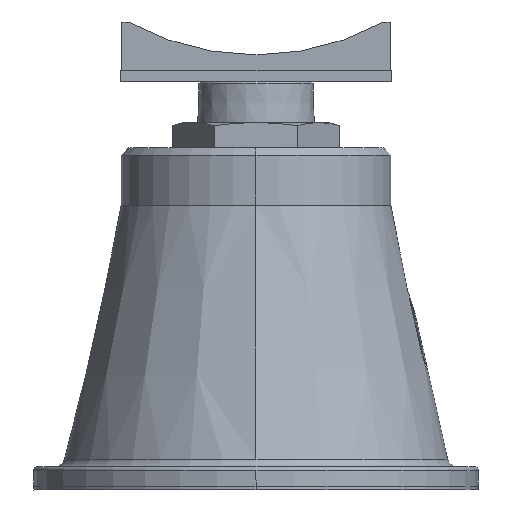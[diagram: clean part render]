
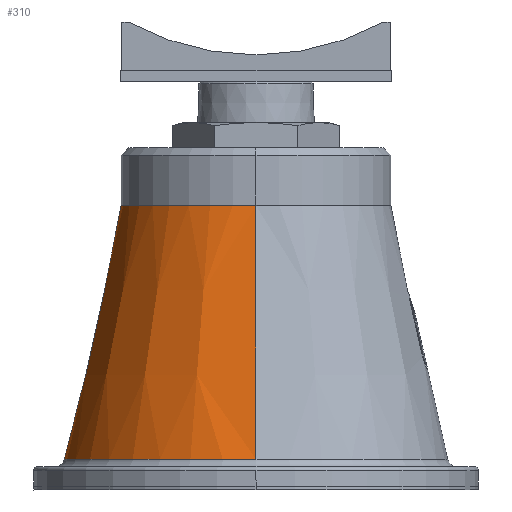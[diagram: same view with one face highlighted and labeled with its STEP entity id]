
A CAD part, left-side view. The second image highlights one B-rep face of the part: STEP entity #310.
In plain terms, the highlighted conical face has half-angle 12.633 degrees and reference radius 84.432 mm.
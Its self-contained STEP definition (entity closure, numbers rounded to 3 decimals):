
#310=ADVANCED_FACE('',(#649),#650,.T.);
#649=FACE_OUTER_BOUND('',#1047,.T.);
#650=CONICAL_SURFACE('',#1048,84.432,0.22);
#1047=EDGE_LOOP('',(#1759,#1760,#1761,#1762,#1763));
#1048=AXIS2_PLACEMENT_3D('',#1764,#1765,#1766);
#1759=ORIENTED_EDGE('',*,*,#2500,.T.);
#1760=ORIENTED_EDGE('',*,*,#2525,.F.);
#1761=ORIENTED_EDGE('',*,*,#2502,.T.);
#1762=ORIENTED_EDGE('',*,*,#2526,.T.);
#1763=ORIENTED_EDGE('',*,*,#2426,.T.);
#1764=CARTESIAN_POINT('',(434.792,556.23,-99.293));
#1765=DIRECTION('',(0.,0.,-1.0));
#1766=DIRECTION('',(-1.0,0.,0.));
#2426=EDGE_CURVE('',#2890,#2898,#2900,.T.);
#2500=EDGE_CURVE('',#2898,#3031,#3032,.T.);
#2502=EDGE_CURVE('',#3035,#3033,#3036,.T.);
#2525=EDGE_CURVE('',#3035,#3031,#3074,.T.);
#2526=EDGE_CURVE('',#3033,#2890,#3075,.T.);
#2890=VERTEX_POINT('',#3627);
#2898=VERTEX_POINT('',#3635);
#2900=CIRCLE('',#3637,99.123);
#3031=VERTEX_POINT('',#4228);
#3032=LINE('',#4229,#4230);
#3033=VERTEX_POINT('',#4231);
#3035=VERTEX_POINT('',#4233);
#3036=LINE('',#4234,#4235);
#3074=CIRCLE('',#4282,69.742);
#3075=CIRCLE('',#4283,99.123);
#3627=CARTESIAN_POINT('',(434.792,655.353,-164.835));
#3635=CARTESIAN_POINT('',(335.67,556.23,-164.835));
#3637=AXIS2_PLACEMENT_3D('',#4765,#4766,#4767);
#4228=CARTESIAN_POINT('',(365.051,556.23,-33.75));
#4229=CARTESIAN_POINT('',(350.36,556.23,-99.293));
#4230=VECTOR('',#4836,1.0);
#4231=CARTESIAN_POINT('',(533.915,556.23,-164.835));
#4233=CARTESIAN_POINT('',(504.534,556.23,-33.75));
#4234=CARTESIAN_POINT('',(519.224,556.23,-99.293));
#4235=VECTOR('',#4840,1.0);
#4282=AXIS2_PLACEMENT_3D('',#4883,#4884,#4885);
#4283=AXIS2_PLACEMENT_3D('',#4886,#4887,#4888);
#4765=CARTESIAN_POINT('',(434.792,556.23,-164.835));
#4766=DIRECTION('',(0.,0.,1.0));
#4767=DIRECTION('',(-1.0,0.,0.));
#4836=DIRECTION('',(0.219,0.,0.976));
#4840=DIRECTION('',(0.219,0.,-0.976));
#4883=CARTESIAN_POINT('',(434.792,556.23,-33.75));
#4884=DIRECTION('',(0.,0.,1.0));
#4885=DIRECTION('',(-1.0,0.,0.));
#4886=CARTESIAN_POINT('',(434.792,556.23,-164.835));
#4887=DIRECTION('',(0.,0.,1.0));
#4888=DIRECTION('',(-1.0,0.,0.));
